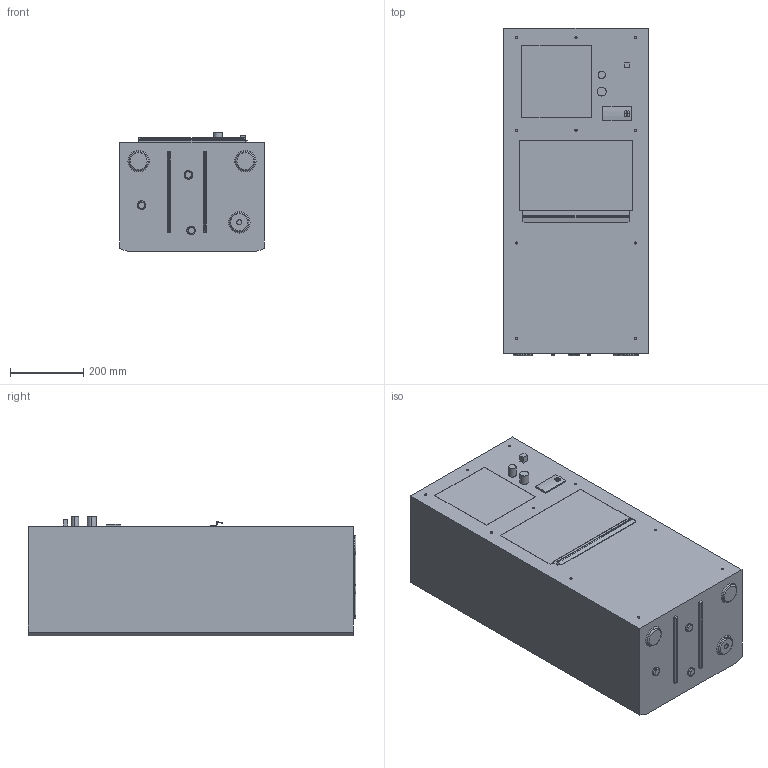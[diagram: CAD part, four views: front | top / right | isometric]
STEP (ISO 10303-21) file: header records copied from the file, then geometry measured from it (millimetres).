
FILE_DESCRIPTION((''),'2;1');
FILE_NAME('OC8715_20_25-STP','2023-12-04T15:57:43',('danielc'),(''),'CREO PARAMETRIC BY PTC INC, 2019080','CREO PARAMETRIC BY PTC INC, 2019080','');
FILE_SCHEMA(('CONFIG_CONTROL_DESIGN','SHAPE_APPEARANCE_LAYERS_GROUPS'));
Length unit declared in the file: millimetre
Products named in the file (1): OC8715_20_25-STP
Bounding box: 395 x 896.35 x 328 mm (x, y, z)
Volume: 105129678.9 mm3; surface area: 1491854.8 mm2
Topology: 1 solids, 1 shells, 162 faces, 373 edges, 264 vertices
Faces by surface type: plane 84, cylinder 60, torus 18
Entity records: 4773 total; most frequent: CARTESIAN_POINT 884, DIRECTION 815, ORIENTED_EDGE 710, EDGE_CURVE 355, AXIS2_PLACEMENT_3D 295, VERTEX_POINT 228, VECTOR 225, LINE 225
